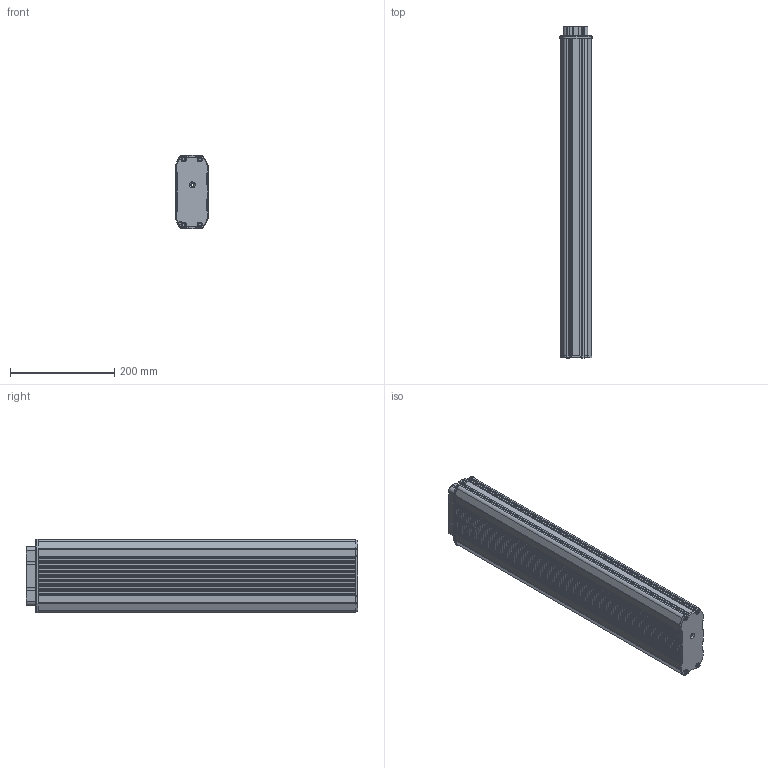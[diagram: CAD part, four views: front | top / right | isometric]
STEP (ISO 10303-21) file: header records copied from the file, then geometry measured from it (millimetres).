
FILE_DESCRIPTION (( 'STEP AP203' ), '1' );
FILE_NAME ('T165-2 EB638 Hub500 eingefahren.STEP', '2010-02-16T14:46:55', ( 'PC' ), ( 'PC' ), 'SwSTEP 2.0', 'SolidWorks 2007', '' );
FILE_SCHEMA (( 'CONFIG_CONTROL_DESIGN' ));
Length unit declared in the file: millimetre
Products named in the file (6): Brille neu T165_Standard; T165-2  EB638 Hub500 eingefahren; T165A_Merwag; Hilfsplatte_Achsparallel; T170I_koax achsparallel; Fußplatte Innen_aus Pom mit Führung
Assembly tree (5 placements, depth 2):
  T165-2  EB638 Hub500 eingefahren
    T165A_Merwag
    Hilfsplatte_Achsparallel
    Fußplatte Innen_aus Pom mit Führung
    Brille neu T165_Standard
    T170I_koax achsparallel
Bounding box: 63.33 x 638 x 141.98 mm (x, y, z)
Volume: 1499905.9 mm3; surface area: 1008254.9 mm2
Topology: 5 solids, 5 shells, 778 faces, 2202 edges, 1441 vertices
Faces by surface type: cylinder 489, plane 228, torus 31, cone 30
Entity records: 26448 total; most frequent: DIRECTION 4792, CARTESIAN_POINT 4581, ORIENTED_EDGE 4404, EDGE_CURVE 2202, AXIS2_PLACEMENT_3D 1820, VERTEX_POINT 1441, VECTOR 1152, LINE 1152
